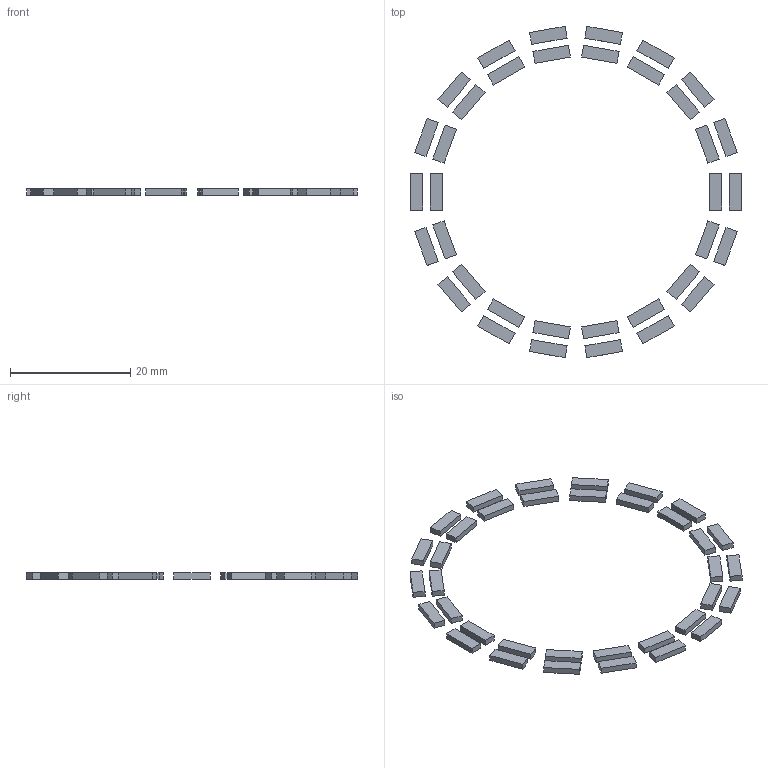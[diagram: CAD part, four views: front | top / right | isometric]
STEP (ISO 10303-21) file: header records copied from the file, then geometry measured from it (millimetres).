
FILE_DESCRIPTION(('Open CASCADE Model'),'2;1');
FILE_NAME('Open CASCADE Shape Model','2026-11-03T19:53:07',('Author'),( 'Open CASCADE'),'Open CASCADE STEP processor 7.9','Open CASCADE 7.9' ,'Unknown');
FILE_SCHEMA(('AUTOMOTIVE_DESIGN { 1 0 10303 214 1 1 1 1 }'));
Length unit declared in the file: millimetre
Products named in the file (37): Open CASCADE STEP translator 7.9 4; Open CASCADE STEP translator 7.9 4.1; Open CASCADE STEP translator 7.9 4.2; Open CASCADE STEP translator 7.9 4.3; Open CASCADE STEP translator 7.9 4.4; Open CASCADE STEP translator 7.9 4.5; Open CASCADE STEP translator 7.9 4.6; Open CASCADE STEP translator 7.9 4.7; Open CASCADE STEP translator 7.9 4.8; Open CASCADE STEP translator 7.9 4.9; Open CASCADE STEP translator 7.9 4.10; Open CASCADE STEP translator 7.9 4.11; Open CASCADE STEP translator 7.9 4.12; Open CASCADE STEP translator 7.9 4.13; Open CASCADE STEP translator 7.9 4.14; Open CASCADE STEP translator 7.9 4.15; Open CASCADE STEP translator 7.9 4.16; Open CASCADE STEP translator 7.9 4.17; Open CASCADE STEP translator 7.9 4.18; Open CASCADE STEP translator 7.9 4.19; Open CASCADE STEP translator 7.9 4.20; Open CASCADE STEP translator 7.9 4.21; Open CASCADE STEP translator 7.9 4.22; Open CASCADE STEP translator 7.9 4.23; Open CASCADE STEP translator 7.9 4.24; Open CASCADE STEP translator 7.9 4.25; Open CASCADE STEP translator 7.9 4.26; Open CASCADE STEP translator 7.9 4.27; Open CASCADE STEP translator 7.9 4.28; Open CASCADE STEP translator 7.9 4.29; Open CASCADE STEP translator 7.9 4.30; Open CASCADE STEP translator 7.9 4.31; Open CASCADE STEP translator 7.9 4.32; Open CASCADE STEP translator 7.9 4.33; Open CASCADE STEP translator 7.9 4.34; Open CASCADE STEP translator 7.9 4.35; Open CASCADE STEP translator 7.9 4.36
Assembly tree (36 placements, depth 2):
  Open CASCADE STEP translator 7.9 4
    Open CASCADE STEP translator 7.9 4.1
    Open CASCADE STEP translator 7.9 4.2
    Open CASCADE STEP translator 7.9 4.3
    Open CASCADE STEP translator 7.9 4.4
    Open CASCADE STEP translator 7.9 4.5
    Open CASCADE STEP translator 7.9 4.6
    Open CASCADE STEP translator 7.9 4.7
    Open CASCADE STEP translator 7.9 4.8
    Open CASCADE STEP translator 7.9 4.9
    Open CASCADE STEP translator 7.9 4.10
    Open CASCADE STEP translator 7.9 4.11
    Open CASCADE STEP translator 7.9 4.12
    Open CASCADE STEP translator 7.9 4.13
    Open CASCADE STEP translator 7.9 4.14
    Open CASCADE STEP translator 7.9 4.15
    Open CASCADE STEP translator 7.9 4.16
    Open CASCADE STEP translator 7.9 4.17
    Open CASCADE STEP translator 7.9 4.18
    Open CASCADE STEP translator 7.9 4.19
    Open CASCADE STEP translator 7.9 4.20
    Open CASCADE STEP translator 7.9 4.21
    Open CASCADE STEP translator 7.9 4.22
    Open CASCADE STEP translator 7.9 4.23
    Open CASCADE STEP translator 7.9 4.24
    Open CASCADE STEP translator 7.9 4.25
    Open CASCADE STEP translator 7.9 4.26
    Open CASCADE STEP translator 7.9 4.27
    Open CASCADE STEP translator 7.9 4.28
    Open CASCADE STEP translator 7.9 4.29
    Open CASCADE STEP translator 7.9 4.30
    Open CASCADE STEP translator 7.9 4.31
    Open CASCADE STEP translator 7.9 4.32
    Open CASCADE STEP translator 7.9 4.33
    Open CASCADE STEP translator 7.9 4.34
    Open CASCADE STEP translator 7.9 4.35
    Open CASCADE STEP translator 7.9 4.36
Bounding box: 55 x 55.21 x 1 mm (x, y, z)
Volume: 432 mm3; surface area: 1440 mm2
Topology: 36 solids, 36 shells, 216 faces, 432 edges, 288 vertices
Faces by surface type: plane 216
Entity records: 11680 total; most frequent: CARTESIAN_POINT 1837, DIRECTION 1802, LINE 1296, VECTOR 1296, ORIENTED_EDGE 864, PCURVE 864, DEFINITIONAL_REPRESENTATION 864, EDGE_CURVE 432
